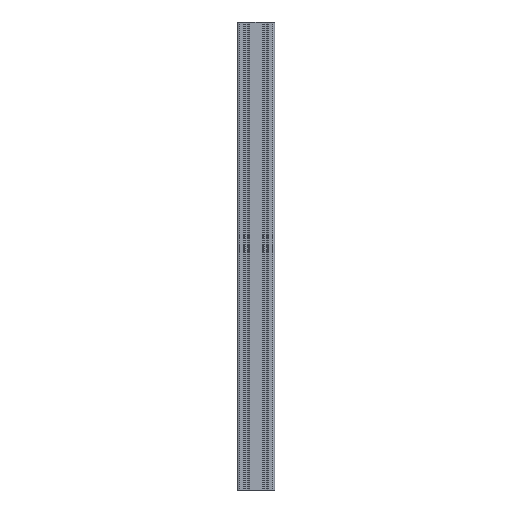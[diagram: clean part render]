
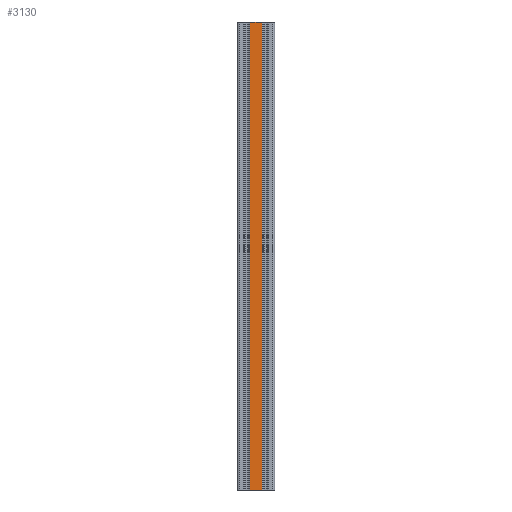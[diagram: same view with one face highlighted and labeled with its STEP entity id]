
A CAD part, front view. The second image highlights one B-rep face of the part: STEP entity #3130.
In plain terms, the highlighted planar face has unit normal (0, -1, 0).
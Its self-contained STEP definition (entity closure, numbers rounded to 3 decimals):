
#73 = EDGE_CURVE ( 'NONE', #3100, #1873, #2751, .T. ) ;
#177 = EDGE_LOOP ( 'NONE', ( #2848, #2478, #1559, #2810 ) ) ;
#277 = DIRECTION ( 'NONE',  ( 0., 0., 1. ) ) ;
#279 = EDGE_CURVE ( 'NONE', #2834, #1541, #2080, .T. ) ;
#333 = LINE ( 'NONE', #1635, #3232 ) ;
#556 = DIRECTION ( 'NONE',  ( 1., 0., 0. ) ) ;
#876 = VECTOR ( 'NONE', #3063, 1000. ) ;
#1541 = VERTEX_POINT ( 'NONE', #2850 ) ;
#1559 = ORIENTED_EDGE ( 'NONE', *, *, #2194, .F. ) ;
#1604 = PLANE ( 'NONE',  #3805 ) ;
#1635 = CARTESIAN_POINT ( 'NONE',  ( -20., -10., -250. ) ) ;
#1737 = VECTOR ( 'NONE', #1776, 1000. ) ;
#1776 = DIRECTION ( 'NONE',  ( 1., 0., 0. ) ) ;
#1873 = VERTEX_POINT ( 'NONE', #2128 ) ;
#1900 = CARTESIAN_POINT ( 'NONE',  ( -20., -10., -294.721 ) ) ;
#1914 = VECTOR ( 'NONE', #277, 1000. ) ;
#1944 = CARTESIAN_POINT ( 'NONE',  ( 6.7, -10., -250. ) ) ;
#1964 = FACE_OUTER_BOUND ( 'NONE', #177, .T. ) ;
#2080 = LINE ( 'NONE', #1944, #1914 ) ;
#2128 = CARTESIAN_POINT ( 'NONE',  ( -6.7, -10., 250. ) ) ;
#2194 = EDGE_CURVE ( 'NONE', #1873, #1541, #3868, .T. ) ;
#2314 = DIRECTION ( 'NONE',  ( -1., 0., 0. ) ) ;
#2478 = ORIENTED_EDGE ( 'NONE', *, *, #279, .T. ) ;
#2751 = LINE ( 'NONE', #3743, #876 ) ;
#2810 = ORIENTED_EDGE ( 'NONE', *, *, #73, .F. ) ;
#2834 = VERTEX_POINT ( 'NONE', #4095 ) ;
#2848 = ORIENTED_EDGE ( 'NONE', *, *, #3966, .F. ) ;
#2850 = CARTESIAN_POINT ( 'NONE',  ( 6.7, -10., 250. ) ) ;
#2903 = CARTESIAN_POINT ( 'NONE',  ( -6.7, -10., -250. ) ) ;
#3063 = DIRECTION ( 'NONE',  ( 0., 0., 1. ) ) ;
#3100 = VERTEX_POINT ( 'NONE', #2903 ) ;
#3130 = ADVANCED_FACE ( 'NONE', ( #1964 ), #1604, .T. ) ;
#3232 = VECTOR ( 'NONE', #2314, 1000. ) ;
#3743 = CARTESIAN_POINT ( 'NONE',  ( -6.7, -10., -250. ) ) ;
#3774 = CARTESIAN_POINT ( 'NONE',  ( -20., -10., 250. ) ) ;
#3805 = AXIS2_PLACEMENT_3D ( 'NONE', #1900, #4224, #556 ) ;
#3868 = LINE ( 'NONE', #3774, #1737 ) ;
#3966 = EDGE_CURVE ( 'NONE', #2834, #3100, #333, .T. ) ;
#4095 = CARTESIAN_POINT ( 'NONE',  ( 6.7, -10., -250. ) ) ;
#4224 = DIRECTION ( 'NONE',  ( 0., -1., 0. ) ) ;
